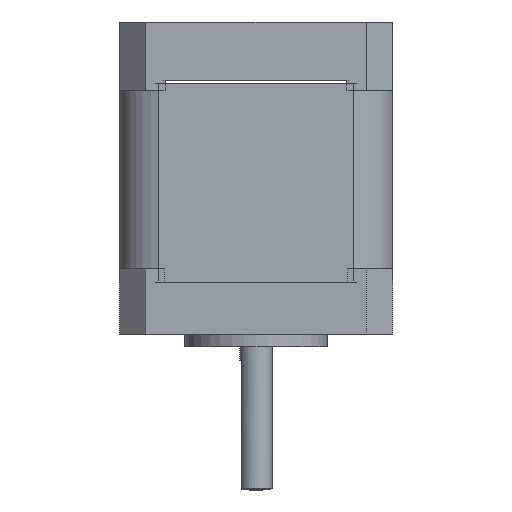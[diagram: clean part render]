
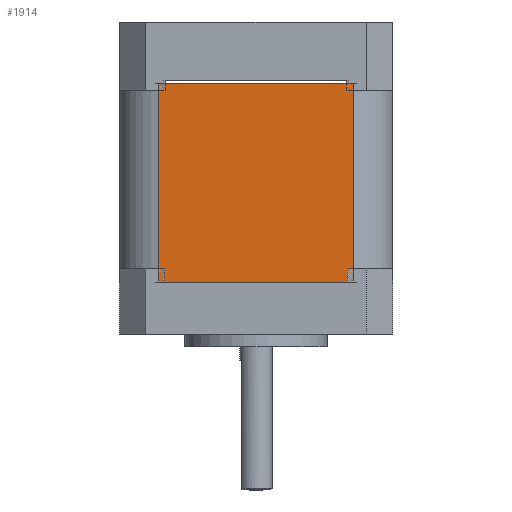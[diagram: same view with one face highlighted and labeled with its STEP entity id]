
A CAD part, front view. The second image highlights one B-rep face of the part: STEP entity #1914.
In plain terms, the highlighted planar face has unit normal (0, -1, 0).
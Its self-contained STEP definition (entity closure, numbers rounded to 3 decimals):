
#410 = EDGE_CURVE ( 'NONE', #6634, #5982, #3004, .T. ) ;
#1104 = VERTEX_POINT ( 'NONE', #5960 ) ;
#1914 = ADVANCED_FACE ( 'NONE', ( #3044 ), #3108, .F. ) ;
#2816 = AXIS2_PLACEMENT_3D ( 'NONE', #3094, #3086, #3077 ) ;
#2827 = EDGE_CURVE ( 'NONE', #5982, #1104, #5199, .T. ) ;
#3004 = LINE ( 'NONE', #4150, #5749 ) ;
#3044 = FACE_OUTER_BOUND ( 'NONE', #5233, .T. ) ;
#3077 = DIRECTION ( 'NONE',  ( 0., 0., 1. ) ) ;
#3086 = DIRECTION ( 'NONE',  ( 0., 1., 0. ) ) ;
#3094 = CARTESIAN_POINT ( 'NONE',  ( 0., -21., 30.5 ) ) ;
#3108 = PLANE ( 'NONE',  #2816 ) ;
#3465 = VECTOR ( 'NONE', #4120, 1000. ) ;
#3532 = CARTESIAN_POINT ( 'NONE',  ( -15., -21., 30.5 ) ) ;
#3909 = ORIENTED_EDGE ( 'NONE', *, *, #410, .F. ) ;
#4039 = EDGE_CURVE ( 'NONE', #1104, #6170, #6331, .T. ) ;
#4120 = DIRECTION ( 'NONE',  ( 0., 0., -1. ) ) ;
#4147 = CARTESIAN_POINT ( 'NONE',  ( 15., -21., 30.5 ) ) ;
#4150 = CARTESIAN_POINT ( 'NONE',  ( -15., -21., 30.5 ) ) ;
#4159 = DIRECTION ( 'NONE',  ( 0., 0., 1. ) ) ;
#4434 = CARTESIAN_POINT ( 'NONE',  ( 0., -21., 0. ) ) ;
#4472 = DIRECTION ( 'NONE',  ( -1., 0., 0. ) ) ;
#4727 = CARTESIAN_POINT ( 'NONE',  ( 15., -21., 0. ) ) ;
#4786 = ORIENTED_EDGE ( 'NONE', *, *, #6128, .F. ) ;
#5040 = VECTOR ( 'NONE', #5879, 1000. ) ;
#5199 = LINE ( 'NONE', #5590, #5040 ) ;
#5233 = EDGE_LOOP ( 'NONE', ( #6945, #6221, #3909, #4786 ) ) ;
#5369 = LINE ( 'NONE', #4434, #6563 ) ;
#5590 = CARTESIAN_POINT ( 'NONE',  ( 0., -21., 30.5 ) ) ;
#5749 = VECTOR ( 'NONE', #4159, 1000. ) ;
#5879 = DIRECTION ( 'NONE',  ( 1., 0., 0. ) ) ;
#5956 = CARTESIAN_POINT ( 'NONE',  ( -15., -21., 0. ) ) ;
#5960 = CARTESIAN_POINT ( 'NONE',  ( 15., -21., 30.5 ) ) ;
#5982 = VERTEX_POINT ( 'NONE', #3532 ) ;
#6128 = EDGE_CURVE ( 'NONE', #6170, #6634, #5369, .T. ) ;
#6170 = VERTEX_POINT ( 'NONE', #4727 ) ;
#6221 = ORIENTED_EDGE ( 'NONE', *, *, #2827, .F. ) ;
#6331 = LINE ( 'NONE', #4147, #3465 ) ;
#6563 = VECTOR ( 'NONE', #4472, 1000. ) ;
#6634 = VERTEX_POINT ( 'NONE', #5956 ) ;
#6945 = ORIENTED_EDGE ( 'NONE', *, *, #4039, .F. ) ;
